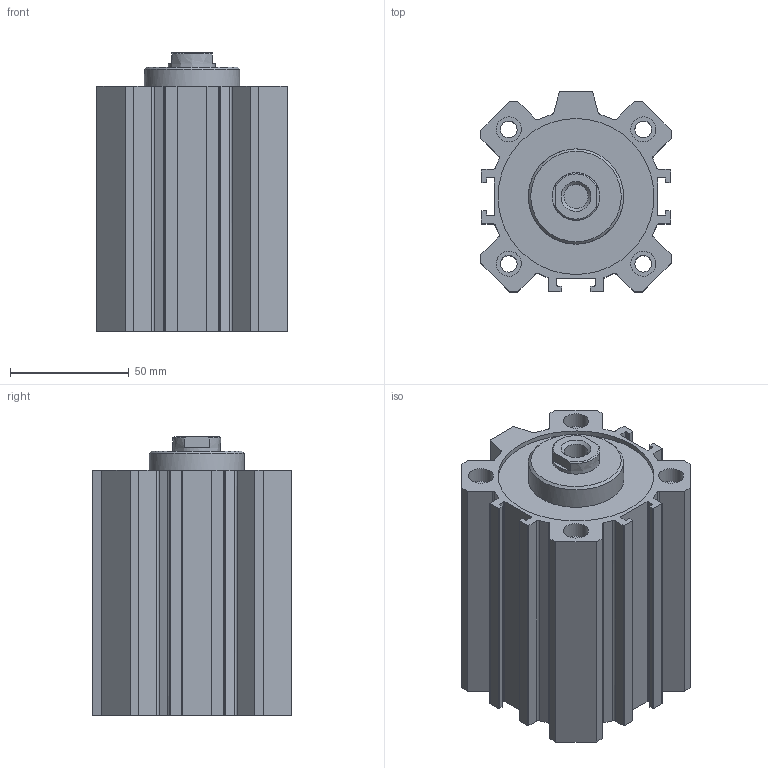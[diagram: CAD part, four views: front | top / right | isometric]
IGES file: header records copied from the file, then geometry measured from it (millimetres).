
Global section: file name: 1511_63_0060; native system: Autodesk Inventor 2014; preprocessor: unknown; author: A. Manieri; date: 20160824.140148; units: millimetre
Bounding box: 80 x 84 x 117 mm (x, y, z)
Volume: 366466.7 mm3; surface area: 102231 mm2
Topology: 2 solids, 2 shells, 165 faces, 443 edges, 300 vertices
Faces by surface type: bspline 165
